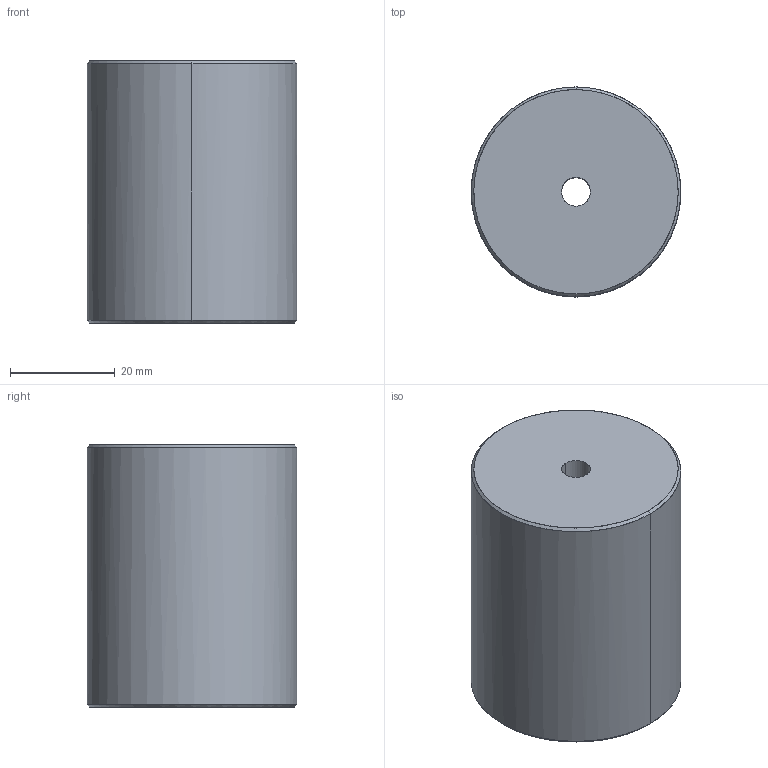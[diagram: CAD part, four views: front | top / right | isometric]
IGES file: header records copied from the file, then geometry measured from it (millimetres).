
Global section: file name: E:\UnigraphicsGraphicData\MISUMI_PRESS-PARTS\IGES\3d_fwss-d40-v5.5-t50_00541_r00.igs; native system: NX V5.0; preprocessor: UGS NX IGES V5.0; author: MISUMI; date: 20110105.160701; units: millimetre
Bounding box: 39.99 x 40 x 50 mm (x, y, z)
Surface area: 9538.9 mm2 (no closed solid volume)
Topology: 0 solids, 0 shells, 10 faces, 80 edges, 80 vertices
Faces by surface type: bspline 10
